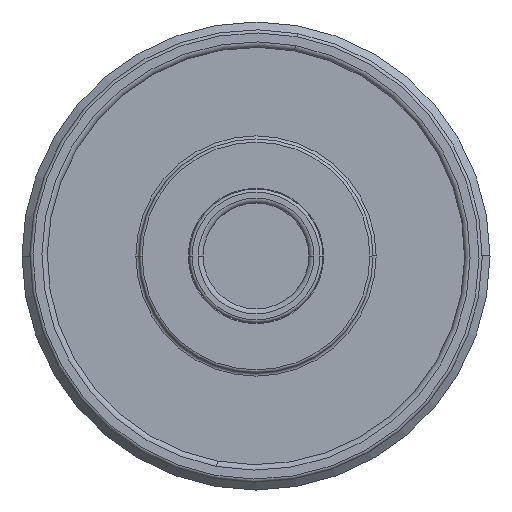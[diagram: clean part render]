
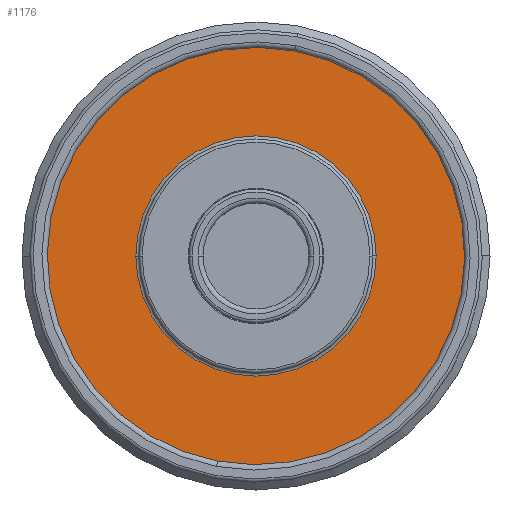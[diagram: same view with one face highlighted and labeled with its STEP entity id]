
A CAD part, front view. The second image highlights one B-rep face of the part: STEP entity #1176.
In plain terms, the highlighted planar face has unit normal (0, -1, 0).
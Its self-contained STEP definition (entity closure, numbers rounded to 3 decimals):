
#800=PLANE('',#3064);
#837=FACE_BOUND('',#1495,.T.);
#838=FACE_BOUND('',#1496,.T.);
#1176=ADVANCED_FACE('',(#837,#838),#800,.F.);
#1495=EDGE_LOOP('',(#1891,#1892));
#1496=EDGE_LOOP('',(#1893,#1894));
#1891=ORIENTED_EDGE('',*,*,#2528,.T.);
#1892=ORIENTED_EDGE('',*,*,#2493,.T.);
#1893=ORIENTED_EDGE('',*,*,#2529,.T.);
#1894=ORIENTED_EDGE('',*,*,#2501,.T.);
#2259=VERTEX_POINT('',#4395);
#2260=VERTEX_POINT('',#4396);
#2267=VERTEX_POINT('',#4413);
#2268=VERTEX_POINT('',#4414);
#2493=EDGE_CURVE('',#2259,#2260,#2760,.T.);
#2501=EDGE_CURVE('',#2267,#2268,#2768,.T.);
#2528=EDGE_CURVE('',#2260,#2259,#2787,.T.);
#2529=EDGE_CURVE('',#2268,#2267,#2788,.T.);
#2760=CIRCLE('',#3022,15.4);
#2768=CIRCLE('',#3032,28.6);
#2787=CIRCLE('',#3062,15.4);
#2788=CIRCLE('',#3063,28.6);
#3022=AXIS2_PLACEMENT_3D('',#4394,#3563,#3564);
#3032=AXIS2_PLACEMENT_3D('',#4412,#3583,#3584);
#3062=AXIS2_PLACEMENT_3D('',#4462,#3651,#3652);
#3063=AXIS2_PLACEMENT_3D('',#4463,#3653,#3654);
#3064=AXIS2_PLACEMENT_3D('',#4464,#3655,#3656);
#3563=DIRECTION('',(0.,1.,0.));
#3564=DIRECTION('',(-1.,0.,0.));
#3583=DIRECTION('',(0.,-1.,0.));
#3584=DIRECTION('',(-1.,0.,0.));
#3651=DIRECTION('',(0.,1.,0.));
#3652=DIRECTION('',(-1.,0.,0.));
#3653=DIRECTION('',(0.,-1.,0.));
#3654=DIRECTION('',(-1.,0.,0.));
#3655=DIRECTION('',(0.,1.,0.));
#3656=DIRECTION('',(1.,0.,0.));
#4394=CARTESIAN_POINT('',(0.,26.6,0.));
#4395=CARTESIAN_POINT('',(15.4,26.6,0.));
#4396=CARTESIAN_POINT('',(-15.4,26.6,0.));
#4412=CARTESIAN_POINT('',(0.,26.6,0.));
#4413=CARTESIAN_POINT('',(28.6,26.6,0.));
#4414=CARTESIAN_POINT('',(-28.6,26.6,0.));
#4462=CARTESIAN_POINT('',(0.,26.6,0.));
#4463=CARTESIAN_POINT('',(0.,26.6,0.));
#4464=CARTESIAN_POINT('',(28.8,26.6,0.));
